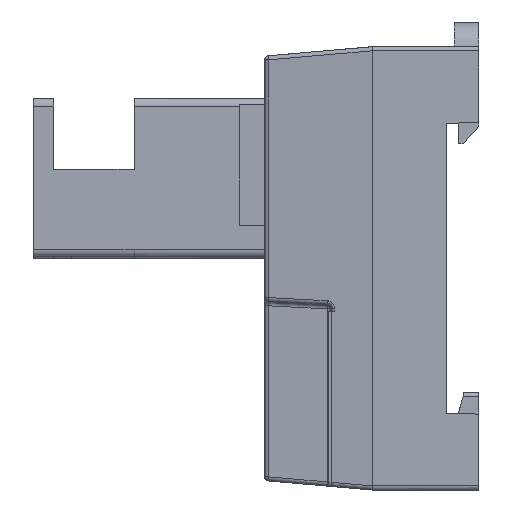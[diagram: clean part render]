
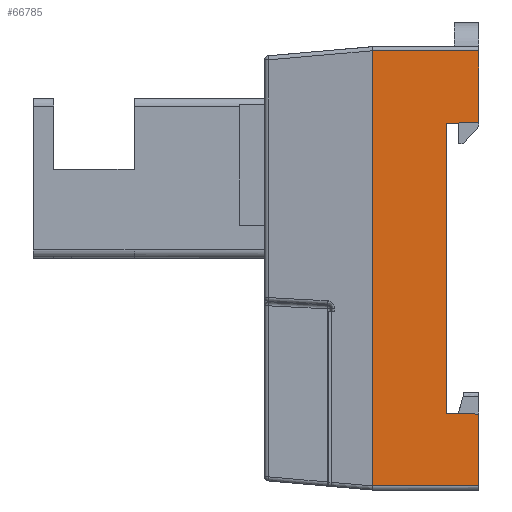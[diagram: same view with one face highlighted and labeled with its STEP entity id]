
A CAD part, left-side view. The second image highlights one B-rep face of the part: STEP entity #66785.
In plain terms, the highlighted planar face has unit normal (-1, 0, 0).
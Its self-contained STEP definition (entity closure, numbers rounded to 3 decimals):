
#2009 = EDGE_CURVE ( 'NONE', #52965, #46788, #64405, .T. ) ;
#3233 = ORIENTED_EDGE ( 'NONE', *, *, #23280, .F. ) ;
#3907 = CARTESIAN_POINT ( 'NONE',  ( -72., -13., 27. ) ) ;
#4827 = CARTESIAN_POINT ( 'NONE',  ( -72., -9., 27. ) ) ;
#4843 = VERTEX_POINT ( 'NONE', #29797 ) ;
#5601 = CARTESIAN_POINT ( 'NONE',  ( -72., 0., 26.5 ) ) ;
#6262 = CARTESIAN_POINT ( 'NONE',  ( -72., -13., 27. ) ) ;
#11375 = LINE ( 'NONE', #11715, #57267 ) ;
#11715 = CARTESIAN_POINT ( 'NONE',  ( -72., -13., 26.5 ) ) ;
#13469 = ORIENTED_EDGE ( 'NONE', *, *, #30850, .T. ) ;
#15376 = EDGE_CURVE ( 'NONE', #45372, #46788, #11375, .T. ) ;
#15585 = ORIENTED_EDGE ( 'NONE', *, *, #21661, .F. ) ;
#16123 = ORIENTED_EDGE ( 'NONE', *, *, #2009, .F. ) ;
#19834 = VECTOR ( 'NONE', #23259, 1000. ) ;
#21231 = DIRECTION ( 'NONE',  ( 0., 0., -1. ) ) ;
#21388 = LINE ( 'NONE', #64246, #28432 ) ;
#21661 = EDGE_CURVE ( 'NONE', #21763, #55929, #67004, .T. ) ;
#21763 = VERTEX_POINT ( 'NONE', #47769 ) ;
#22075 = CARTESIAN_POINT ( 'NONE',  ( -72., -13., 17.75 ) ) ;
#22197 = EDGE_LOOP ( 'NONE', ( #16123, #13469, #26576, #15585, #3233, #58129, #66733, #34544 ) ) ;
#23259 = DIRECTION ( 'NONE',  ( 0., 1., -0.017 ) ) ;
#23280 = EDGE_CURVE ( 'NONE', #39625, #21763, #46682, .T. ) ;
#25348 = VECTOR ( 'NONE', #67338, 1000. ) ;
#25498 = VECTOR ( 'NONE', #21231, 1000. ) ;
#26576 = ORIENTED_EDGE ( 'NONE', *, *, #35502, .T. ) ;
#27380 = CARTESIAN_POINT ( 'NONE',  ( -72., -13., 27. ) ) ;
#27802 = DIRECTION ( 'NONE',  ( 0., 0., 1. ) ) ;
#28432 = VECTOR ( 'NONE', #47525, 1000. ) ;
#29797 = CARTESIAN_POINT ( 'NONE',  ( -72., -13., -26.5 ) ) ;
#29824 = VECTOR ( 'NONE', #36686, 1000. ) ;
#30786 = VERTEX_POINT ( 'NONE', #22075 ) ;
#30850 = EDGE_CURVE ( 'NONE', #52965, #4843, #21388, .T. ) ;
#32981 = DIRECTION ( 'NONE',  ( 0., 1., 0. ) ) ;
#33946 = LINE ( 'NONE', #3907, #29824 ) ;
#34544 = ORIENTED_EDGE ( 'NONE', *, *, #15376, .T. ) ;
#35502 = EDGE_CURVE ( 'NONE', #4843, #55929, #33946, .T. ) ;
#36686 = DIRECTION ( 'NONE',  ( 0., 0., 1. ) ) ;
#37218 = CARTESIAN_POINT ( 'NONE',  ( -72., 0., 27. ) ) ;
#37594 = VECTOR ( 'NONE', #27802, 1000. ) ;
#38951 = CARTESIAN_POINT ( 'NONE',  ( -72., -13.161, 17.753 ) ) ;
#39625 = VERTEX_POINT ( 'NONE', #50067 ) ;
#42027 = CARTESIAN_POINT ( 'NONE',  ( -72., -13., -17.75 ) ) ;
#42051 = DIRECTION ( 'NONE',  ( 0., 0., 1. ) ) ;
#43067 = PLANE ( 'NONE',  #65443 ) ;
#45372 = VERTEX_POINT ( 'NONE', #60753 ) ;
#46682 = LINE ( 'NONE', #4827, #25498 ) ;
#46788 = VERTEX_POINT ( 'NONE', #5601 ) ;
#47525 = DIRECTION ( 'NONE',  ( 0., -1., 0. ) ) ;
#47769 = CARTESIAN_POINT ( 'NONE',  ( -72., -9., -17.68 ) ) ;
#50067 = CARTESIAN_POINT ( 'NONE',  ( -72., -9., 17.68 ) ) ;
#50624 = CARTESIAN_POINT ( 'NONE',  ( -72., -12.219, -17.736 ) ) ;
#52854 = DIRECTION ( 'NONE',  ( -1., 0., 0. ) ) ;
#52965 = VERTEX_POINT ( 'NONE', #57903 ) ;
#53694 = LINE ( 'NONE', #6262, #65920 ) ;
#54586 = EDGE_CURVE ( 'NONE', #30786, #39625, #60548, .T. ) ;
#55929 = VERTEX_POINT ( 'NONE', #42027 ) ;
#56801 = EDGE_CURVE ( 'NONE', #30786, #45372, #53694, .T. ) ;
#57267 = VECTOR ( 'NONE', #32981, 1000. ) ;
#57903 = CARTESIAN_POINT ( 'NONE',  ( -72., 0., -26.5 ) ) ;
#58129 = ORIENTED_EDGE ( 'NONE', *, *, #54586, .F. ) ;
#60548 = LINE ( 'NONE', #38951, #19834 ) ;
#60753 = CARTESIAN_POINT ( 'NONE',  ( -72., -13., 26.5 ) ) ;
#63657 = FACE_OUTER_BOUND ( 'NONE', #22197, .T. ) ;
#64246 = CARTESIAN_POINT ( 'NONE',  ( -72., -13., -26.5 ) ) ;
#64405 = LINE ( 'NONE', #37218, #37594 ) ;
#64499 = DIRECTION ( 'NONE',  ( 0., 0., 1. ) ) ;
#65443 = AXIS2_PLACEMENT_3D ( 'NONE', #27380, #52854, #42051 ) ;
#65920 = VECTOR ( 'NONE', #64499, 1000. ) ;
#66733 = ORIENTED_EDGE ( 'NONE', *, *, #56801, .T. ) ;
#66785 = ADVANCED_FACE ( 'NONE', ( #63657 ), #43067, .T. ) ;
#67004 = LINE ( 'NONE', #50624, #25348 ) ;
#67338 = DIRECTION ( 'NONE',  ( 0., -1., -0.017 ) ) ;
